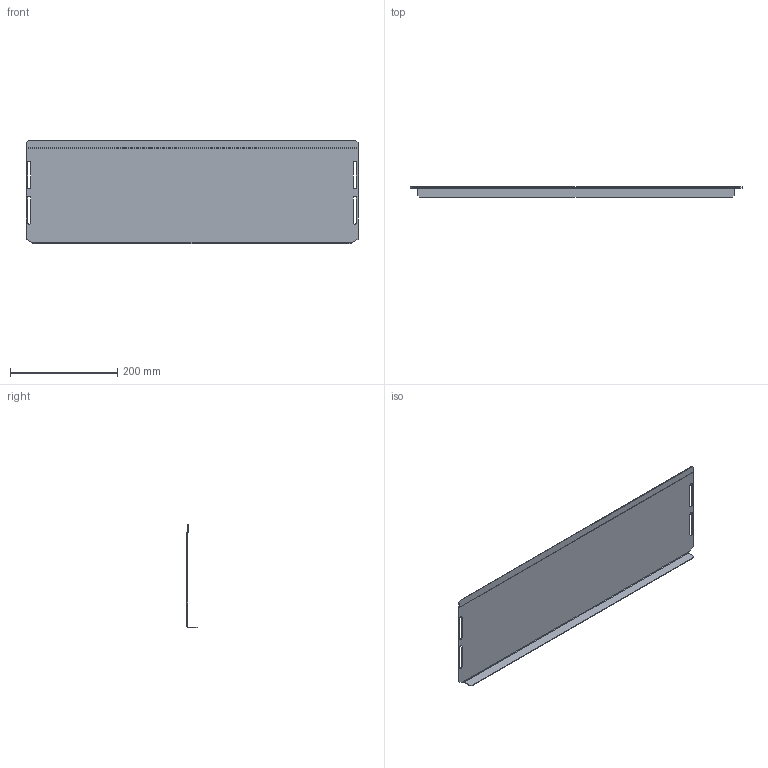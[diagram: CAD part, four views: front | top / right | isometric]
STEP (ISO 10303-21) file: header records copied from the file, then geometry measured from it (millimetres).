
FILE_DESCRIPTION (( 'STEP AP214' ), '1' );
FILE_NAME ('PKV 80 PH Ïàíåëü ïîäâèæíàÿ.STEP', '2021-05-24T10:03:34', ( '' ), ( '' ), 'SwSTEP 2.0', 'SolidWorks 2018', '' );
FILE_SCHEMA (( 'AUTOMOTIVE_DESIGN' ));
Length unit declared in the file: millimetre
Products named in the file (1): PKV 80 PH Ïàíåëü ïîäâèæíàÿ
Bounding box: 620.5 x 19 x 193.6 mm (x, y, z)
Volume: 155100.8 mm3; surface area: 261004.5 mm2
Topology: 1 solids, 1 shells, 52 faces, 130 edges, 80 vertices
Faces by surface type: plane 32, cylinder 18, bspline 2
Entity records: 1636 total; most frequent: CARTESIAN_POINT 345, ORIENTED_EDGE 260, DIRECTION 256, EDGE_CURVE 130, VECTOR 90, LINE 90, AXIS2_PLACEMENT_3D 83, VERTEX_POINT 80
